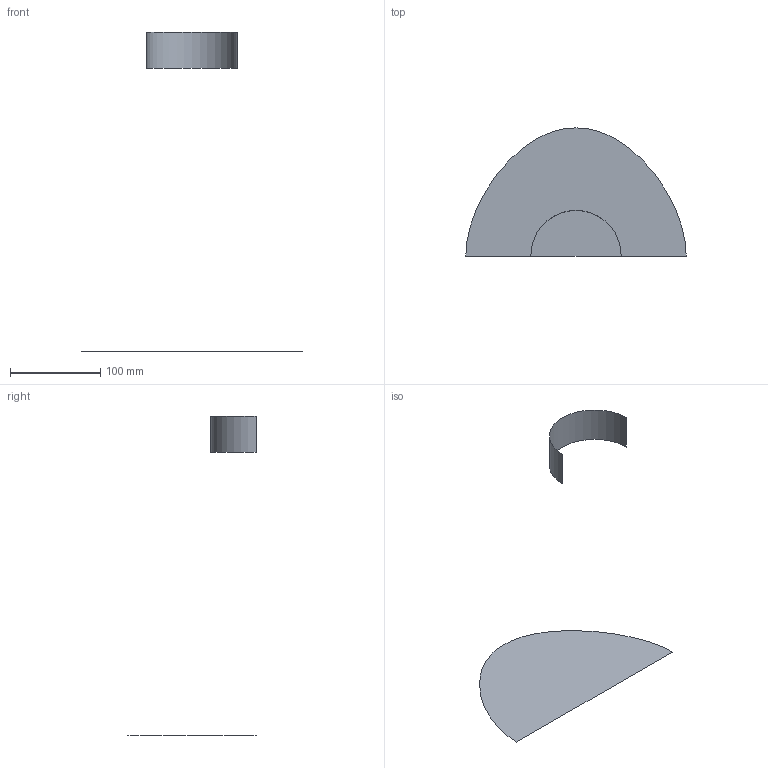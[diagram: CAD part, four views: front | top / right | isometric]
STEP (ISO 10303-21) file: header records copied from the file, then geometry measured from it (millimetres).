
FILE_DESCRIPTION(('CATIA V5 STEP Exchange'),'2;1');
FILE_NAME('C:\_Andres\UNIVERSIDAD\IQS\ASIGNATURAS\DAO\Controles\1617\c1\1original\Sarasa_Prat_Ej00-base_v32.stp','2017-02-06T16:27:55+00:00',('none'),('none'),'CATIA Version 5-6 Release 2014 SP1 HF18','CATIA V5 STEP AP203','none');
FILE_SCHEMA(('CONFIG_CONTROL_DESIGN'));
Length unit declared in the file: millimetre
Products named in the file (1): Sarasa_Prat_Ej00-base_v32
Bounding box: 244 x 142 x 354 mm (x, y, z)
Surface area: 32357.9 mm2 (no closed solid volume)
Topology: 0 solids, 2 shells, 2 faces, 16 edges, 26 vertices
Faces by surface type: cylinder 1, plane 1
Entity records: 230 total; most frequent: CARTESIAN_POINT 78, DIRECTION 16, COMPOSITE_CURVE_SEGMENT 9, TRIMMED_CURVE 9, AXIS2_PLACEMENT_3D 8, COMPOSITE_CURVE 7, ORIENTED_EDGE 7, EDGE_CURVE 7
